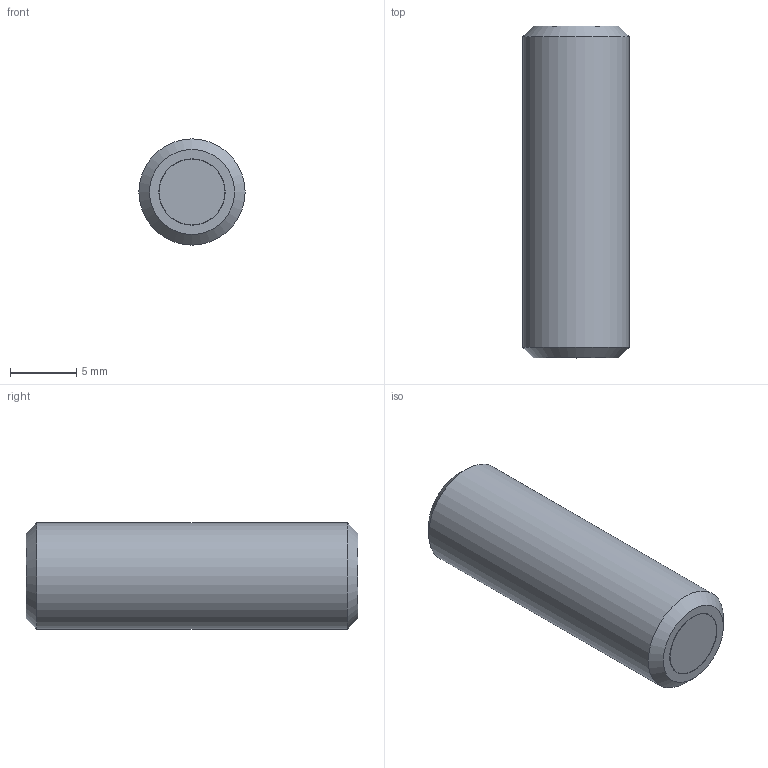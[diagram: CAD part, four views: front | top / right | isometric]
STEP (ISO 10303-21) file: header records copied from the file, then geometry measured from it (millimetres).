
FILE_DESCRIPTION(/* description */ ('STEP AP214'),/* implementation_level */ '2;1');
FILE_NAME(/* name */ 'Grub screw with retaining magnet GN 913.6-M8-25-ND',/* time_stamp */ '2023-10-03T11:26:33+02:00',/* author */ ('License CC BY-ND 4.0'),/* organization */ ('CADENAS'),/* preprocessor_version */ 'ST-DEVELOPER v19.3',/* originating_system */ 'PARTsolutions',/* authorisation */ ' ');
FILE_SCHEMA (('AUTOMOTIVE_DESIGN {1 0 10303 214 3 1 1}'));
Length unit declared in the file: millimetre
Products named in the file (1): Grub screw with retaining magnet GN 913.6-M8-25-ND
Bounding box: 8 x 25 x 8 mm (x, y, z)
Volume: 1183.8 mm3; surface area: 759.1 mm2
Topology: 1 solids, 1 shells, 22 faces, 46 edges, 28 vertices
Faces by surface type: plane 16, cone 3, cylinder 3
Full cylindrical faces by diameter (mm): 4.96 x1, 5 x1, 8 x1
Entity records: 566 total; most frequent: DIRECTION 98, CARTESIAN_POINT 88, ORIENTED_EDGE 76, EDGE_CURVE 38, AXIS2_PLACEMENT_3D 37, FACE_BOUND 31, EDGE_LOOP 30, VERTEX_POINT 27
